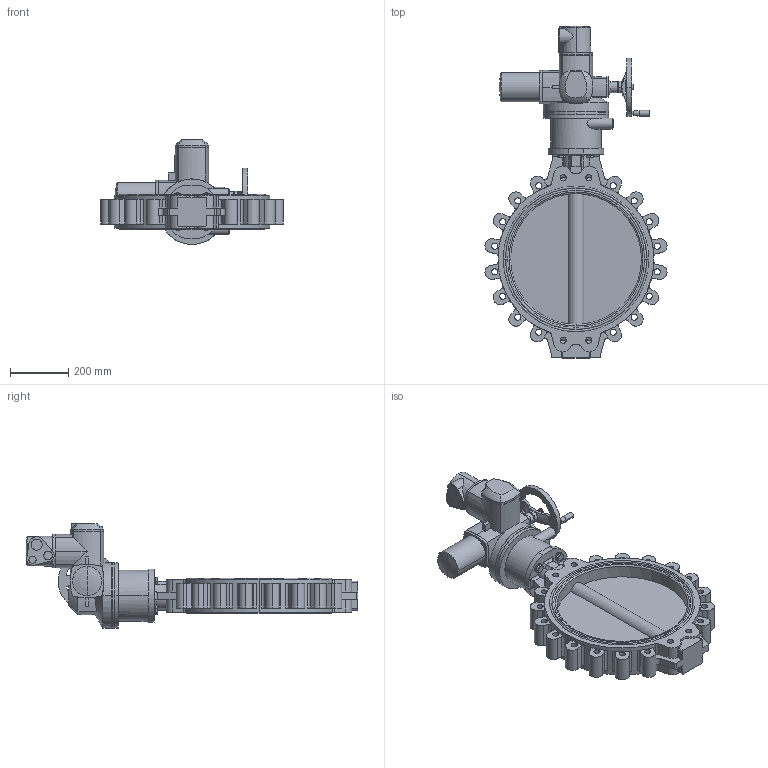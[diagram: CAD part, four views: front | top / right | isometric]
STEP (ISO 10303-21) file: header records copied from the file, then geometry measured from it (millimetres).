
FILE_DESCRIPTION (( 'STEP AP214' ), '1' );
FILE_NAME ('67558.step', '2020-10-23T13:47:14', ( '' ), ( '' ), 'SwSTEP 2.0', 'SolidWorks 2019', '' );
FILE_SCHEMA (( 'AUTOMOTIVE_DESIGN' ));
Length unit declared in the file: millimetre
Products named in the file (7): TL20-0450_M01; U-Scheibe DIN 125 A_M16; 54377_SQ14.2 F14-VK36; Gewindestift mit Kegelkuppe und In-6kt DIN 913 A4_Gewindestift mit In-6kt M6x12; SQ(R) 14.2_SQ14.2 Drehstrommotor F14; 67558; 6kt-Schr DIN 933_M16x45
Assembly tree (12 placements, depth 2):
  67558
    TL20-0450_M01
    U-Scheibe DIN 125 A_M16  x4
    6kt-Schr DIN 933_M16x45  x4
    SQ(R) 14.2_SQ14.2 Drehstrommotor F14
    54377_SQ14.2 F14-VK36
    Gewindestift mit Kegelkuppe und In-6kt DIN 913 A4_Gewindestift mit In-6kt M6x12
Bounding box: 625.8 x 1140.5 x 360.3 mm (x, y, z)
Volume: 29022991.3 mm3; surface area: 1849735 mm2
Topology: 12 solids, 18 shells, 957 faces, 2447 edges, 1564 vertices
Faces by surface type: plane 455, cylinder 355, cone 116, bspline 14, torus 13, sphere 4
Entity records: 36309 total; most frequent: CARTESIAN_POINT 9991, DIRECTION 4590, ORIENTED_EDGE 4442, EDGE_CURVE 2221, AXIS2_PLACEMENT_3D 1708, VERTEX_POINT 1442, VECTOR 1174, LINE 1174
